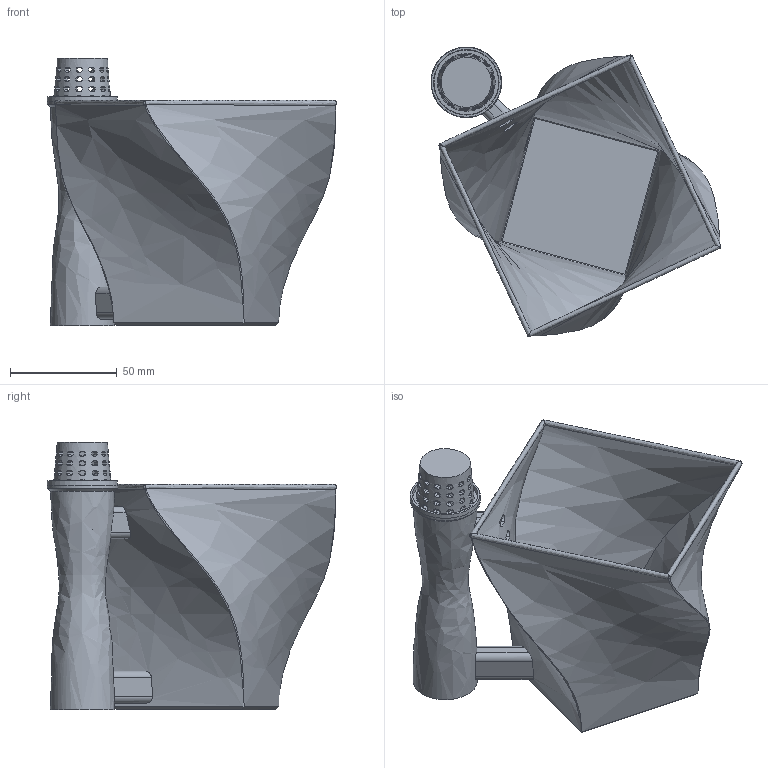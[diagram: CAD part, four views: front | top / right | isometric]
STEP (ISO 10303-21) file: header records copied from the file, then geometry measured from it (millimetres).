
FILE_DESCRIPTION(/* description */ (''),/* implementation_level */ '2;1');
FILE_NAME(/* name */ 'D:/Documents/3D/Garden/vase ladder/Cutomizers/Camelia.step',/* time_stamp */ '2021-04-07T18:59:48-04:00',/* author */ (''),/* organization */ (''),/* preprocessor_version */ 'ST-DEVELOPER v18.1',/* originating_system */ 'Autodesk Translation Framework v10.6.0.1341',/* authorisation */ '');
FILE_SCHEMA (('AUTOMOTIVE_DESIGN { 1 0 10303 214 3 1 1 }'));
Length unit declared in the file: millimetre
Products named in the file (1): Tower_b
Bounding box: 135.67 x 135.67 x 125 mm (x, y, z)
Volume: 71733.2 mm3; surface area: 102593.6 mm2
Topology: 1 solids, 1 shells, 500 faces, 1543 edges, 1032 vertices
Faces by surface type: plane 435, bspline 43, cylinder 17, cone 5
Full cylindrical faces by diameter (mm): 33 x1
Entity records: 21118 total; most frequent: CARTESIAN_POINT 6929, ORIENTED_EDGE 3086, DIRECTION 2946, EDGE_CURVE 1543, AXIS2_PLACEMENT_3D 1132, VERTEX_POINT 1032, LINE 682, VECTOR 682
